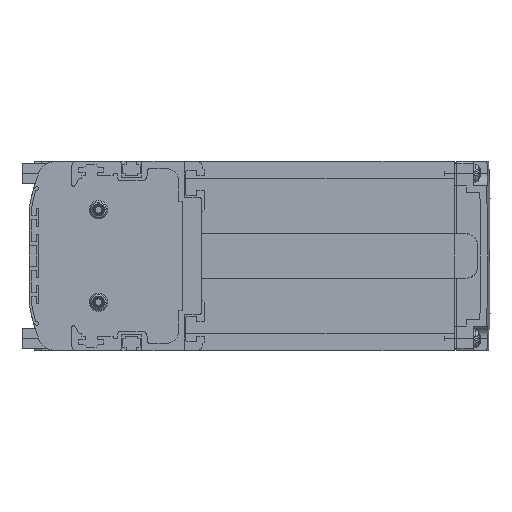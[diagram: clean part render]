
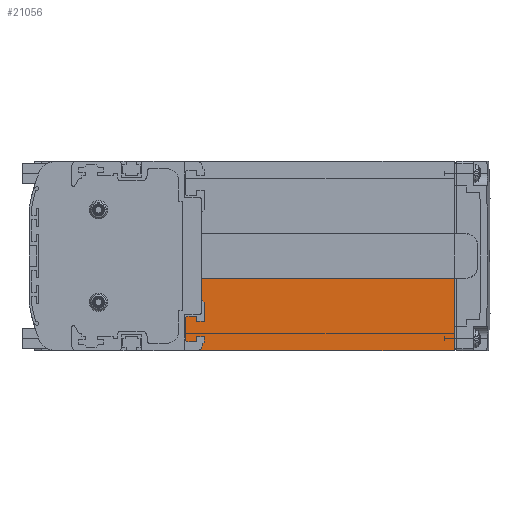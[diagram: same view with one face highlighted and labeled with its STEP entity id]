
A CAD part, left-side view. The second image highlights one B-rep face of the part: STEP entity #21056.
In plain terms, the highlighted planar face has unit normal (-1, 0, 0).
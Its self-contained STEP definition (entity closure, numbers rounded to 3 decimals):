
#124=DIRECTION('',(0.,0.,1.));
#125=VECTOR('',#124,29.9);
#126=CARTESIAN_POINT('',(3.,-103.,-39.));
#127=LINE('',#126,#125);
#370=DIRECTION('',(0.,1.,0.));
#371=VECTOR('',#370,112.);
#372=CARTESIAN_POINT('',(3.,-103.,-39.));
#373=LINE('',#372,#371);
#4800=DIRECTION('',(0.,0.,1.));
#4801=VECTOR('',#4800,13.9);
#4802=CARTESIAN_POINT('',(3.,1.,-23.));
#4803=LINE('',#4802,#4801);
#6649=DIRECTION('',(0.,1.,0.));
#6650=VECTOR('',#6649,104.);
#6651=CARTESIAN_POINT('',(3.,-103.,-9.1));
#6652=LINE('',#6651,#6650);
#14722=CARTESIAN_POINT('',(3.,2.,-23.));
#14723=DIRECTION('',(-1.,0.,0.));
#14724=DIRECTION('',(0.,0.,-1.));
#14725=AXIS2_PLACEMENT_3D('',#14722,#14723,#14724);
#14735=DIRECTION('',(0.,1.,0.));
#14736=VECTOR('',#14735,6.);
#14737=CARTESIAN_POINT('',(3.,2.,-24.));
#14738=LINE('',#14737,#14736);
#14739=DIRECTION('',(0.,0.,-1.));
#14740=VECTOR('',#14739,14.);
#14741=CARTESIAN_POINT('',(3.,8.,-24.));
#14742=LINE('',#14741,#14740);
#14747=CARTESIAN_POINT('',(3.,9.,-38.));
#14748=DIRECTION('',(-1.,0.,0.));
#14749=DIRECTION('',(0.,0.,-1.));
#14750=AXIS2_PLACEMENT_3D('',#14747,#14748,#14749);
#16808=CARTESIAN_POINT('',(3.,-103.,-39.));
#16809=VERTEX_POINT('',#16808);
#16810=CARTESIAN_POINT('',(3.,-103.,-9.1));
#16811=VERTEX_POINT('',#16810);
#20228=CARTESIAN_POINT('',(3.,1.,-23.));
#20229=CARTESIAN_POINT('',(3.,1.,-9.1));
#20230=VERTEX_POINT('',#20228);
#20231=VERTEX_POINT('',#20229);
#20276=CARTESIAN_POINT('',(3.,2.,-24.));
#20277=VERTEX_POINT('',#20276);
#20278=CARTESIAN_POINT('',(3.,8.,-24.));
#20279=VERTEX_POINT('',#20278);
#20280=CARTESIAN_POINT('',(3.,8.,-38.));
#20281=VERTEX_POINT('',#20280);
#20282=CARTESIAN_POINT('',(3.,9.,-39.));
#20283=VERTEX_POINT('',#20282);
#21033=CARTESIAN_POINT('',(3.,48.25,0.));
#21034=DIRECTION('',(1.,0.,0.));
#21035=DIRECTION('',(0.,1.,0.));
#21036=AXIS2_PLACEMENT_3D('',#21033,#21034,#21035);
#21037=PLANE('',#21036);
#21039=ORIENTED_EDGE('',*,*,#21038,.T.);
#21041=ORIENTED_EDGE('',*,*,#21040,.F.);
#21043=ORIENTED_EDGE('',*,*,#21042,.F.);
#21045=ORIENTED_EDGE('',*,*,#21044,.T.);
#21047=ORIENTED_EDGE('',*,*,#21046,.T.);
#21049=ORIENTED_EDGE('',*,*,#21048,.F.);
#21051=ORIENTED_EDGE('',*,*,#21050,.F.);
#21053=ORIENTED_EDGE('',*,*,#21052,.T.);
#21054=EDGE_LOOP('',(#21039,#21041,#21043,#21045,#21047,#21049,#21051,#21053));
#21055=FACE_OUTER_BOUND('',#21054,.F.);
#21056=ADVANCED_FACE('',(#21055),#21037,.F.);
#14726=CIRCLE('',#14725,1.);
#14751=CIRCLE('',#14750,1.);
#21038=EDGE_CURVE('',#20230,#20231,#4803,.T.);
#21040=EDGE_CURVE('',#16811,#20231,#6652,.T.);
#21042=EDGE_CURVE('',#16809,#16811,#127,.T.);
#21044=EDGE_CURVE('',#16809,#20283,#373,.T.);
#21046=EDGE_CURVE('',#20283,#20281,#14751,.T.);
#21048=EDGE_CURVE('',#20279,#20281,#14742,.T.);
#21050=EDGE_CURVE('',#20277,#20279,#14738,.T.);
#21052=EDGE_CURVE('',#20277,#20230,#14726,.T.);
